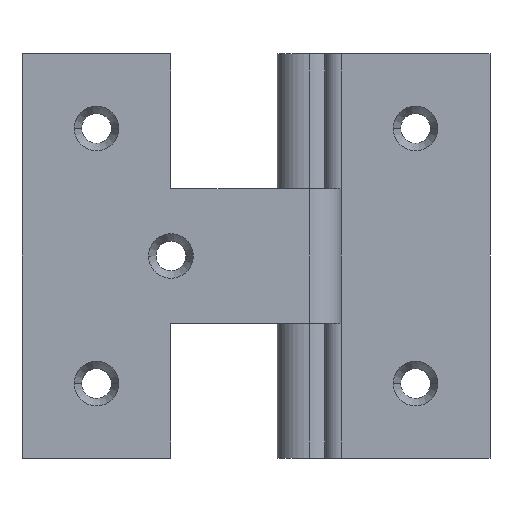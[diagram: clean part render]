
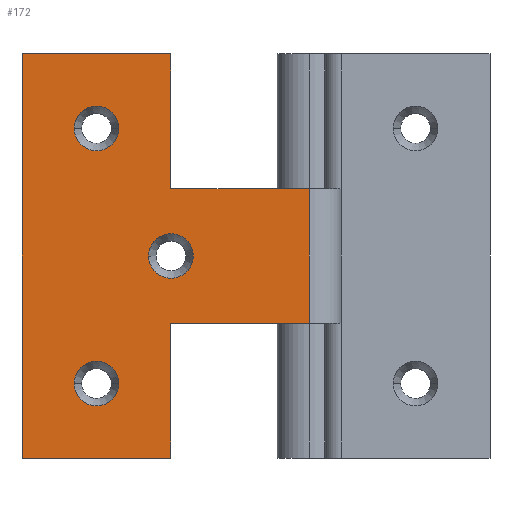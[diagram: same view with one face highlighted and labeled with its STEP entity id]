
A CAD part, front view. The second image highlights one B-rep face of the part: STEP entity #172.
In plain terms, the highlighted planar face has unit normal (0, -1, 0).
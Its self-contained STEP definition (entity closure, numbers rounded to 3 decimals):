
#172=ADVANCED_FACE('',(#283,#284,#285,#286),#287,.T.);
#283=FACE_BOUND('',#407,.T.);
#284=FACE_BOUND('',#408,.T.);
#285=FACE_BOUND('',#409,.T.);
#286=FACE_OUTER_BOUND('',#410,.T.);
#287=PLANE('',#411);
#407=EDGE_LOOP('',(#828,#829));
#408=EDGE_LOOP('',(#830,#831));
#409=EDGE_LOOP('',(#832,#833));
#410=EDGE_LOOP('',(#834,#835,#836,#837,#838,#839,#840,#841));
#411=AXIS2_PLACEMENT_3D('',#842,#843,#844);
#828=ORIENTED_EDGE('',*,*,#1035,.T.);
#829=ORIENTED_EDGE('',*,*,#1015,.T.);
#830=ORIENTED_EDGE('',*,*,#1037,.T.);
#831=ORIENTED_EDGE('',*,*,#1011,.T.);
#832=ORIENTED_EDGE('',*,*,#1039,.T.);
#833=ORIENTED_EDGE('',*,*,#1007,.T.);
#834=ORIENTED_EDGE('',*,*,#1042,.T.);
#835=ORIENTED_EDGE('',*,*,#1047,.T.);
#836=ORIENTED_EDGE('',*,*,#1001,.F.);
#837=ORIENTED_EDGE('',*,*,#1051,.T.);
#838=ORIENTED_EDGE('',*,*,#1052,.T.);
#839=ORIENTED_EDGE('',*,*,#1053,.T.);
#840=ORIENTED_EDGE('',*,*,#1054,.T.);
#841=ORIENTED_EDGE('',*,*,#1048,.T.);
#842=CARTESIAN_POINT('',(-27.0,-3.0,0.));
#843=DIRECTION('',(0.0,-1.0,0.0));
#844=DIRECTION('',(-1.0,0.0,0.));
#1001=EDGE_CURVE('',#1215,#1217,#1218,.T.);
#1007=EDGE_CURVE('',#1228,#1225,#1229,.T.);
#1011=EDGE_CURVE('',#1236,#1233,#1237,.T.);
#1015=EDGE_CURVE('',#1244,#1241,#1245,.T.);
#1035=EDGE_CURVE('',#1241,#1244,#1278,.T.);
#1037=EDGE_CURVE('',#1233,#1236,#1280,.T.);
#1039=EDGE_CURVE('',#1225,#1228,#1282,.T.);
#1042=EDGE_CURVE('',#1288,#1286,#1289,.T.);
#1047=EDGE_CURVE('',#1286,#1217,#1295,.T.);
#1048=EDGE_CURVE('',#1296,#1288,#1297,.T.);
#1051=EDGE_CURVE('',#1215,#1301,#1302,.T.);
#1052=EDGE_CURVE('',#1301,#1303,#1304,.T.);
#1053=EDGE_CURVE('',#1303,#1305,#1306,.T.);
#1054=EDGE_CURVE('',#1305,#1296,#1307,.T.);
#1215=VERTEX_POINT('',#1524);
#1217=VERTEX_POINT('',#1526);
#1218=LINE('',#1527,#1528);
#1225=VERTEX_POINT('',#1536);
#1228=VERTEX_POINT('',#1540);
#1229=CIRCLE('',#1541,2.1);
#1233=VERTEX_POINT('',#1546);
#1236=VERTEX_POINT('',#1550);
#1237=CIRCLE('',#1551,2.1);
#1241=VERTEX_POINT('',#1556);
#1244=VERTEX_POINT('',#1560);
#1245=CIRCLE('',#1561,2.1);
#1278=CIRCLE('',#1601,2.1);
#1280=CIRCLE('',#1603,2.1);
#1282=CIRCLE('',#1605,2.1);
#1286=VERTEX_POINT('',#1610);
#1288=VERTEX_POINT('',#1613);
#1289=LINE('',#1614,#1615);
#1295=LINE('',#1624,#1625);
#1296=VERTEX_POINT('',#1626);
#1297=LINE('',#1627,#1628);
#1301=VERTEX_POINT('',#1634);
#1302=LINE('',#1635,#1636);
#1303=VERTEX_POINT('',#1637);
#1304=LINE('',#1638,#1639);
#1305=VERTEX_POINT('',#1640);
#1306=LINE('',#1641,#1642);
#1307=LINE('',#1643,#1644);
#1524=CARTESIAN_POINT('',(0.,-3.0,-12.667));
#1526=CARTESIAN_POINT('',(0.,-3.0,-25.333));
#1527=CARTESIAN_POINT('',(0.,-3.0,0.));
#1528=VECTOR('',#1837,1.0);
#1536=CARTESIAN_POINT('',(-22.1,-3.0,-7.0));
#1540=CARTESIAN_POINT('',(-17.9,-3.0,-7.0));
#1541=AXIS2_PLACEMENT_3D('',#1849,#1850,#1851);
#1546=CARTESIAN_POINT('',(-22.1,-3.0,-31.0));
#1550=CARTESIAN_POINT('',(-17.9,-3.0,-31.0));
#1551=AXIS2_PLACEMENT_3D('',#1857,#1858,#1859);
#1556=CARTESIAN_POINT('',(-15.1,-3.0,-19.0));
#1560=CARTESIAN_POINT('',(-10.9,-3.0,-19.0));
#1561=AXIS2_PLACEMENT_3D('',#1865,#1866,#1867);
#1601=AXIS2_PLACEMENT_3D('',#1911,#1912,#1913);
#1603=AXIS2_PLACEMENT_3D('',#1917,#1918,#1919);
#1605=AXIS2_PLACEMENT_3D('',#1923,#1924,#1925);
#1610=CARTESIAN_POINT('',(-13.0,-3.0,-25.333));
#1613=CARTESIAN_POINT('',(-13.0,-3.0,-38.0));
#1614=CARTESIAN_POINT('',(-13.0,-3.0,-15.833));
#1615=VECTOR('',#1928,1.0);
#1624=CARTESIAN_POINT('',(-16.0,-3.0,-25.333));
#1625=VECTOR('',#1935,1.0);
#1626=CARTESIAN_POINT('',(-27.0,-3.0,-38.0));
#1627=CARTESIAN_POINT('',(0.,-3.0,-38.0));
#1628=VECTOR('',#1936,1.0);
#1634=CARTESIAN_POINT('',(-13.0,-3.0,-12.667));
#1635=CARTESIAN_POINT('',(-16.0,-3.0,-12.667));
#1636=VECTOR('',#1939,1.0);
#1637=CARTESIAN_POINT('',(-13.0,-3.0,0.));
#1638=CARTESIAN_POINT('',(-13.0,-3.0,-3.167));
#1639=VECTOR('',#1940,1.0);
#1640=CARTESIAN_POINT('',(-27.0,-3.0,0.));
#1641=CARTESIAN_POINT('',(0.,-3.0,0.));
#1642=VECTOR('',#1941,1.0);
#1643=CARTESIAN_POINT('',(-27.0,-3.0,0.));
#1644=VECTOR('',#1942,1.0);
#1837=DIRECTION('',(0.,0.0,-1.0));
#1849=CARTESIAN_POINT('',(-20.0,-3.0,-7.0));
#1850=DIRECTION('',(0.0,1.0,0.0));
#1851=DIRECTION('',(-1.0,0.0,0.));
#1857=CARTESIAN_POINT('',(-20.0,-3.0,-31.0));
#1858=DIRECTION('',(0.0,1.0,0.0));
#1859=DIRECTION('',(-1.0,0.0,0.));
#1865=CARTESIAN_POINT('',(-13.0,-3.0,-19.0));
#1866=DIRECTION('',(0.0,1.0,0.0));
#1867=DIRECTION('',(-1.0,0.0,0.));
#1911=CARTESIAN_POINT('',(-13.0,-3.0,-19.0));
#1912=DIRECTION('',(0.0,1.0,0.0));
#1913=DIRECTION('',(-1.0,0.0,0.));
#1917=CARTESIAN_POINT('',(-20.0,-3.0,-31.0));
#1918=DIRECTION('',(0.0,1.0,0.0));
#1919=DIRECTION('',(-1.0,0.0,0.));
#1923=CARTESIAN_POINT('',(-20.0,-3.0,-7.0));
#1924=DIRECTION('',(0.0,1.0,0.0));
#1925=DIRECTION('',(-1.0,0.0,0.));
#1928=DIRECTION('',(0.,0.0,1.0));
#1935=DIRECTION('',(1.0,0.0,0.));
#1936=DIRECTION('',(1.0,0.0,0.));
#1939=DIRECTION('',(-1.0,0.0,0.));
#1940=DIRECTION('',(0.,0.0,1.0));
#1941=DIRECTION('',(-1.0,0.0,0.));
#1942=DIRECTION('',(0.,0.0,-1.0));
